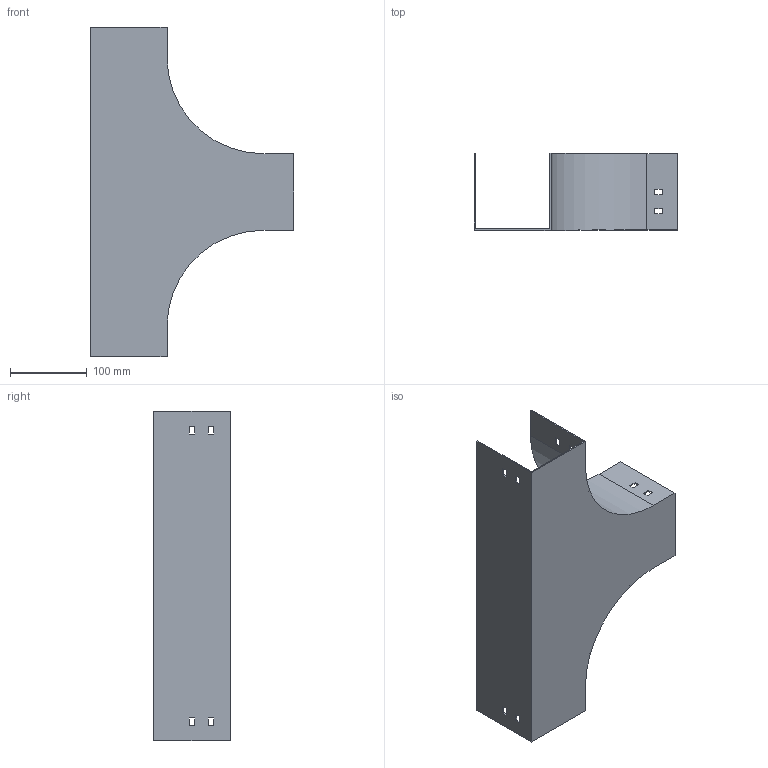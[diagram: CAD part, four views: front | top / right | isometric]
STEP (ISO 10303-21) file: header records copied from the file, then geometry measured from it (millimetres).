
FILE_DESCRIPTION (( 'STEP AP214' ), '1' );
FILE_NAME ('PT_101.step', '2025-07-16T09:23:11', ( '' ), ( '' ), 'SwSTEP 2.0', 'SolidWorks 2023', '' );
FILE_SCHEMA (( 'AUTOMOTIVE_DESIGN' ));
Length unit declared in the file: millimetre
Products named in the file (1): PT_101
Bounding box: 265 x 100 x 430 mm (x, y, z)
Volume: 243591.4 mm3; surface area: 328211.1 mm2
Topology: 1 solids, 1 shells, 70 faces, 204 edges, 136 vertices
Faces by surface type: plane 66, cylinder 4
Entity records: 2347 total; most frequent: CARTESIAN_POINT 411, ORIENTED_EDGE 408, DIRECTION 354, EDGE_CURVE 204, LINE 196, VECTOR 196, VERTEX_POINT 136, EDGE_LOOP 94
